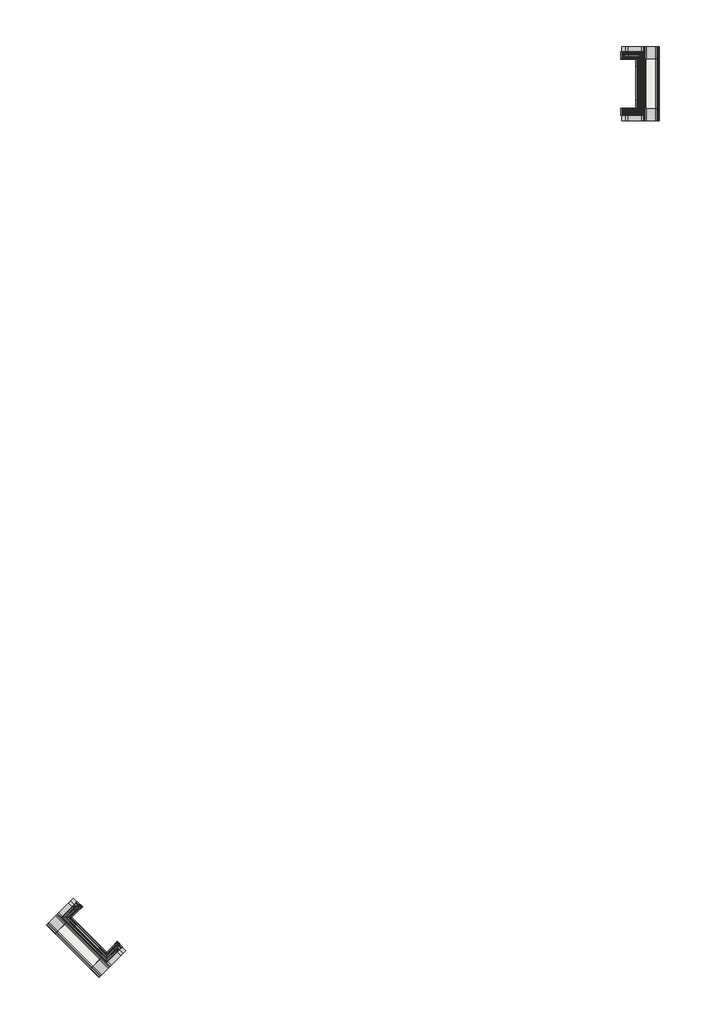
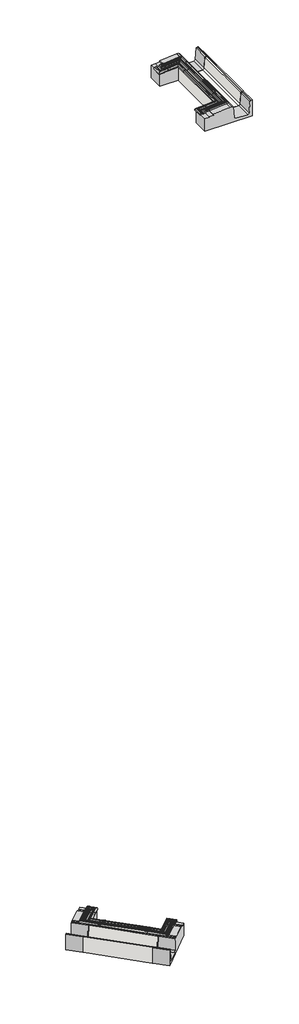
# One storey, incomplete: 12 proxies, 4 slabs.
"""IFC4 building model written with IfcOpenShell, lengths in millimetres."""

from ifc_helpers import new_model, si_unit, origin, place, context, project, spatial, transform, mapped, element, save
from components import bloque_rs_916_1ec51204, bloque_rs_917_cf75d2b8, pieza_043_aqua_blanco_anti_slip_ae11da6b, pieza_087_aqua_blanco_anti_slip_ab740b2f, bloque_rs_912_abb1421b, pieza_007_aqua_blanco_anti_slip_a622d274

model = new_model("IFC4")

# Units and contexts
model_context = context("Model", 3, world=origin())
ifc_project = project(units=[si_unit("LENGTHUNIT", "METRE", prefix="MILLI")], contexts=[model_context])

# Site, building, storey
site = spatial("IfcSite", under=ifc_project)
building = spatial("IfcBuilding", under=site)
storey = spatial("IfcBuildingStorey", under=building, Name="9_NS9 PTo", Elevation=-3028.3)

# Proxies
placement = place(None, origin())
bloque_rs_916_shape = bloque_rs_916_1ec51204(model_context)
element("IfcBuildingElementProxy", 1, Name="ROSA GRES_RS 916 : Bloque RS 916", ObjectType="ROSA GRES_RS 916 : Bloque RS 916", at=placement, inside=storey, context=model_context, shape_type="MappedRepresentation", body=[
    mapped(bloque_rs_916_shape, transform((31740.3755024, -28758.2204365, -3028.3), x_axis=(-0.7071067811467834, 0.7071067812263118, 0.0), y_axis=(-0.7071067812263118, -0.7071067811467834, 0.0), z_axis=(0.0, 0.0, 1.0))),
])
element("IfcBuildingElementProxy", 2, Name="ROSA GRES_RS 916 : Bloque RS 916", ObjectType="ROSA GRES_RS 916 : Bloque RS 916", at=placement, inside=storey, context=model_context, shape_type="MappedRepresentation", body=[
    mapped(bloque_rs_916_shape, transform((40521.6087182, -15755.6039767, -3028.3), x_axis=(0.0, -1.0, 0.0), y_axis=(1.0, 0.0, 0.0), z_axis=(0.0, 0.0, 1.0))),
])
bloque_rs_917_shape = bloque_rs_917_cf75d2b8(model_context)
element("IfcBuildingElementProxy", 3, Name="ROSA GRES_RS 917 : Bloque RS 917", ObjectType="ROSA GRES_RS 917 : Bloque RS 917", at=placement, inside=storey, context=model_context, shape_type="MappedRepresentation", body=[
    mapped(bloque_rs_917_shape, transform((32456.6746717, -29474.5196059, -3028.3), x_axis=(-0.7071067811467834, 0.7071067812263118, 0.0), y_axis=(-0.7071067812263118, -0.7071067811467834, 0.0), z_axis=(0.0, 0.0, 1.0))),
])
element("IfcBuildingElementProxy", 4, Name="ROSA GRES_RS 917 : Bloque RS 917", ObjectType="ROSA GRES_RS 917 : Bloque RS 917", at=placement, inside=storey, context=model_context, shape_type="MappedRepresentation", body=[
    mapped(bloque_rs_917_shape, transform((40521.6087182, -14742.6039767, -3028.3), x_axis=(0.0, -1.0, 0.0), y_axis=(1.0, 0.0, 0.0), z_axis=(0.0, 0.0, 1.0))),
])
pieza_043_aqua_blanco_anti_slip_shape = pieza_043_aqua_blanco_anti_slip_ae11da6b(model_context)
element("IfcBuildingElementProxy", 5, Name="ROSA GRES_043 : Pieza 043_Aqua_Blanco_Anti-Slip", ObjectType="ROSA GRES_043 : Pieza 043_Aqua_Blanco_Anti-Slip", at=placement, inside=storey, context=model_context, shape_type="MappedRepresentation", body=[
    mapped(pieza_043_aqua_blanco_anti_slip_shape, transform((31735.9463008, -28775.3775601, -3029.5818099), x_axis=(-0.7071067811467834, 0.7071067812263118, 0.0), y_axis=(-0.7047759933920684, -0.7047759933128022, 0.08112705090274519), z_axis=(0.057365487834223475, 0.057365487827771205, 0.9967037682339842))),
])
element("IfcBuildingElementProxy", 6, Name="ROSA GRES_043 : Pieza 043_Aqua_Blanco_Anti-Slip", ObjectType="ROSA GRES_043 : Pieza 043_Aqua_Blanco_Anti-Slip", at=placement, inside=storey, context=model_context, shape_type="MappedRepresentation", body=[
    mapped(pieza_043_aqua_blanco_anti_slip_shape, transform((32301.5962401, -29341.0984707, -3028.3617685), x_axis=(-0.7047759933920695, -0.7047759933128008, 0.08112705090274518), y_axis=(0.7071067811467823, -0.7071067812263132, 0.0), z_axis=(0.057365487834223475, 0.057365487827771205, 0.9967037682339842))),
])
element("IfcBuildingElementProxy", 7, Name="ROSA GRES_043 : Pieza 043_Aqua_Blanco_Anti-Slip", ObjectType="ROSA GRES_043 : Pieza 043_Aqua_Blanco_Anti-Slip", at=placement, inside=storey, context=model_context, shape_type="MappedRepresentation", body=[
    mapped(pieza_043_aqua_blanco_anti_slip_shape, transform((40536.8725552, -15746.6039767, -3029.5818099), x_axis=(0.0, -1.0, 0.0), y_axis=(0.9967037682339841, 0.0, 0.08112705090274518), z_axis=(-0.08112705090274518, 0.0, 0.9967037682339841))),
])
element("IfcBuildingElementProxy", 8, Name="ROSA GRES_043 : Pieza 043_Aqua_Blanco_Anti-Slip", ObjectType="ROSA GRES_043 : Pieza 043_Aqua_Blanco_Anti-Slip", at=placement, inside=storey, context=model_context, shape_type="MappedRepresentation", body=[
    mapped(pieza_043_aqua_blanco_anti_slip_shape, transform((40536.9227393, -14946.6039767, -3028.3617685), x_axis=(0.9967037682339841, 0.0, 0.08112705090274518), y_axis=(0.0, 1.0, 0.0), z_axis=(-0.08112705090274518, 0.0, 0.9967037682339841))),
])
pieza_087_aqua_blanco_anti_slip_shape = pieza_087_aqua_blanco_anti_slip_ab740b2f(model_context)
element("IfcBuildingElementProxy", 9, Name="ROSA GRES_087 : Pieza 087_Aqua_Blanco_Anti-Slip", ObjectType="ROSA GRES_087 : Pieza 087_Aqua_Blanco_Anti-Slip", at=placement, inside=storey, context=model_context, shape_type="MappedRepresentation", body=[
    mapped(pieza_087_aqua_blanco_anti_slip_shape, transform((31563.274719, -28948.0491419, -3009.6037698), x_axis=(-0.7071067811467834, 0.7071067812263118, 0.0), y_axis=(-0.7047759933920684, -0.7047759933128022, 0.08112705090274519), z_axis=(0.057365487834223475, 0.057365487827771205, 0.9967037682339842))),
])
element("IfcBuildingElementProxy", 10, Name="ROSA GRES_087 : Pieza 087_Aqua_Blanco_Anti-Slip", ObjectType="ROSA GRES_087 : Pieza 087_Aqua_Blanco_Anti-Slip", at=placement, inside=storey, context=model_context, shape_type="MappedRepresentation", body=[
    mapped(pieza_087_aqua_blanco_anti_slip_shape, transform((32128.8764778, -29513.818233, -3009.5546231), x_axis=(-0.7047759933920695, -0.7047759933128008, 0.08112705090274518), y_axis=(0.7071067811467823, -0.7071067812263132, 0.0), z_axis=(0.057365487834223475, 0.057365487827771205, 0.9967037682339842))),
])
element("IfcBuildingElementProxy", 11, Name="ROSA GRES_087 : Pieza 087_Aqua_Blanco_Anti-Slip", ObjectType="ROSA GRES_087 : Pieza 087_Aqua_Blanco_Anti-Slip", at=placement, inside=storey, context=model_context, shape_type="MappedRepresentation", body=[
    mapped(pieza_087_aqua_blanco_anti_slip_shape, transform((40781.0670479, -15746.6039767, -3009.6037698), x_axis=(0.0, -1.0, 0.0), y_axis=(0.9967037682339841, 0.0, 0.08112705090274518), z_axis=(-0.08112705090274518, 0.0, 0.9967037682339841))),
])
element("IfcBuildingElementProxy", 12, Name="ROSA GRES_087 : Pieza 087_Aqua_Blanco_Anti-Slip", ObjectType="ROSA GRES_087 : Pieza 087_Aqua_Blanco_Anti-Slip", at=placement, inside=storey, context=model_context, shape_type="MappedRepresentation", body=[
    mapped(pieza_087_aqua_blanco_anti_slip_shape, transform((40781.1853697, -14946.6039767, -3009.5546231), x_axis=(0.9967037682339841, 0.0, 0.08112705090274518), y_axis=(0.0, 1.0, 0.0), z_axis=(-0.08112705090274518, 0.0, 0.9967037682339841))),
])

# Slabs
bloque_rs_912_shape = bloque_rs_912_abb1421b(model_context)
element("IfcSlab", 13, ObjectType="ROSA GRES_RS 912 : Bloque_RS 912", at=placement, inside=storey, context=model_context, shape_type="MappedRepresentation", body=[
    mapped(bloque_rs_912_shape, transform((31746.7394634, -28764.5843975, -3028.3), x_axis=(0.7071067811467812, -0.707106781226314, 0.0), y_axis=(0.707106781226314, 0.7071067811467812, 0.0), z_axis=(0.0, 0.0, 1.0))),
])
element("IfcSlab", 14, ObjectType="ROSA GRES_RS 912 : Bloque_RS 912", at=placement, inside=storey, context=model_context, shape_type="MappedRepresentation", body=[
    mapped(bloque_rs_912_shape, transform((40521.6087182, -15746.6039767, -3028.3), x_axis=(0.0, 1.0, 0.0), y_axis=(-1.0, 0.0, 0.0), z_axis=(0.0, 0.0, 1.0))),
])
pieza_007_aqua_blanco_anti_slip_shape = pieza_007_aqua_blanco_anti_slip_a622d274(model_context)
element("IfcSlab", 15, ObjectType="ROSA GRES_007 (ref. RS912) : Pieza 007_Aqua_Blanco_Anti-Slip", at=placement, inside=storey, context=model_context, shape_type="MappedRepresentation", body=[
    mapped(pieza_007_aqua_blanco_anti_slip_shape, transform((32224.2416259, -29242.0865601, -3028.3), x_axis=(-0.7071067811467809, 0.7071067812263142, 0.0), y_axis=(-0.7071067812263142, -0.7071067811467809, 0.0), z_axis=(0.0, 0.0, 1.0))),
])
element("IfcSlab", 16, ObjectType="ROSA GRES_007 (ref. RS912) : Pieza 007_Aqua_Blanco_Anti-Slip", at=placement, inside=storey, context=model_context, shape_type="MappedRepresentation", body=[
    mapped(pieza_007_aqua_blanco_anti_slip_shape, transform((40521.6087182, -15071.3139423, -3028.3), x_axis=(0.0, -1.0, 0.0), y_axis=(1.0, 0.0, 0.0), z_axis=(0.0, 0.0, 1.0))),
])

save(model, "model.ifc")
